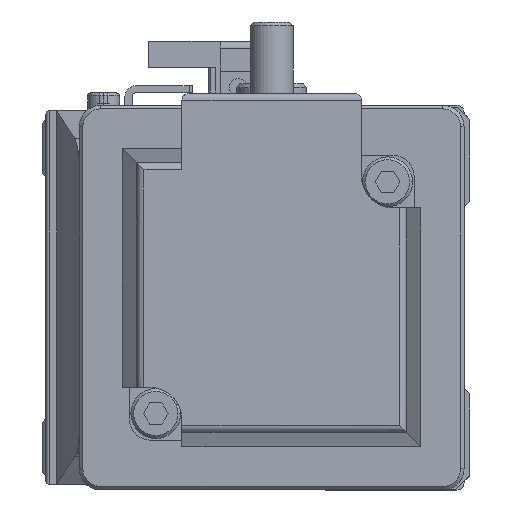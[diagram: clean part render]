
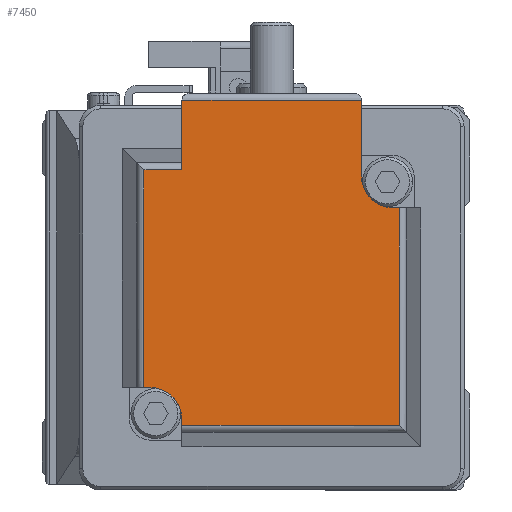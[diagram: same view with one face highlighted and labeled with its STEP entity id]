
A CAD part, left-side view. The second image highlights one B-rep face of the part: STEP entity #7450.
In plain terms, the highlighted planar face has unit normal (-1, 0, 0) as drawn and (0, 1, 0) by its records, which use the part's own axes.
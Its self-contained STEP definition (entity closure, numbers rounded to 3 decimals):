
#237 = ORIENTED_EDGE ( 'NONE', *, *, #16731, .T. ) ;
#523 = EDGE_CURVE ( 'NONE', #20445, #15789, #9105, .T. ) ;
#900 = FACE_OUTER_BOUND ( 'NONE', #1273, .T. ) ;
#1273 = EDGE_LOOP ( 'NONE', ( #3852, #11206, #3442, #22353, #2925, #15159, #237, #17207, #7364, #24690, #19961, #6644 ) ) ;
#2350 = VECTOR ( 'NONE', #8460, 1000. ) ;
#2925 = ORIENTED_EDGE ( 'NONE', *, *, #3369, .F. ) ;
#3369 = EDGE_CURVE ( 'NONE', #23980, #25893, #25294, .T. ) ;
#3442 = ORIENTED_EDGE ( 'NONE', *, *, #24978, .F. ) ;
#3690 = LINE ( 'NONE', #9837, #30607 ) ;
#3852 = ORIENTED_EDGE ( 'NONE', *, *, #17656, .F. ) ;
#4179 = CARTESIAN_POINT ( 'NONE',  ( -17.929, 100.6, 17.929 ) ) ;
#4431 = AXIS2_PLACEMENT_3D ( 'NONE', #23680, #18546, #16305 ) ;
#4613 = CARTESIAN_POINT ( 'NONE',  ( 17.929, 100.6, 12.6 ) ) ;
#5380 = VECTOR ( 'NONE', #32408, 1000. ) ;
#5597 = CIRCLE ( 'NONE', #29621, 4.5 ) ;
#6644 = ORIENTED_EDGE ( 'NONE', *, *, #23652, .F. ) ;
#7364 = ORIENTED_EDGE ( 'NONE', *, *, #18872, .F. ) ;
#7450 = ADVANCED_FACE ( 'NONE', ( #900 ), #28875, .F. ) ;
#7504 = CARTESIAN_POINT ( 'NONE',  ( 17.929, 100.6, -17.929 ) ) ;
#7593 = LINE ( 'NONE', #7751, #17897 ) ;
#7751 = CARTESIAN_POINT ( 'NONE',  ( -12.6, 100.6, -21. ) ) ;
#8268 = CIRCLE ( 'NONE', #16690, 4.5 ) ;
#8460 = DIRECTION ( 'NONE',  ( 1., 0., 0. ) ) ;
#9105 = LINE ( 'NONE', #23483, #13448 ) ;
#9327 = VECTOR ( 'NONE', #24465, 1000. ) ;
#9837 = CARTESIAN_POINT ( 'NONE',  ( 17.929, 100.6, 25. ) ) ;
#10110 = LINE ( 'NONE', #21664, #9327 ) ;
#10419 = DIRECTION ( 'NONE',  ( 0., 0., 1. ) ) ;
#11190 = CARTESIAN_POINT ( 'NONE',  ( 17.1, 100.6, 17.1 ) ) ;
#11206 = ORIENTED_EDGE ( 'NONE', *, *, #19184, .F. ) ;
#11458 = CARTESIAN_POINT ( 'NONE',  ( -17.1, 100.6, -12.6 ) ) ;
#12398 = DIRECTION ( 'NONE',  ( 0., 0., 1. ) ) ;
#12733 = CARTESIAN_POINT ( 'NONE',  ( 27.7, 100.6, 25. ) ) ;
#13448 = VECTOR ( 'NONE', #26241, 1000. ) ;
#13466 = CARTESIAN_POINT ( 'NONE',  ( -17.1, 100.6, -17.1 ) ) ;
#13908 = CARTESIAN_POINT ( 'NONE',  ( -17.929, 100.6, -12.6 ) ) ;
#14059 = VERTEX_POINT ( 'NONE', #30106 ) ;
#14208 = CARTESIAN_POINT ( 'NONE',  ( 17.929, 100.6, 17.929 ) ) ;
#15159 = ORIENTED_EDGE ( 'NONE', *, *, #22182, .T. ) ;
#15396 = VECTOR ( 'NONE', #22114, 1000. ) ;
#15789 = VERTEX_POINT ( 'NONE', #11458 ) ;
#16305 = DIRECTION ( 'NONE',  ( 0., 0., -1. ) ) ;
#16314 = VERTEX_POINT ( 'NONE', #4179 ) ;
#16518 = CARTESIAN_POINT ( 'NONE',  ( 17.929, 100.6, -12.6 ) ) ;
#16690 = AXIS2_PLACEMENT_3D ( 'NONE', #13466, #23401, #23507 ) ;
#16731 = EDGE_CURVE ( 'NONE', #27912, #15789, #8268, .T. ) ;
#17026 = VERTEX_POINT ( 'NONE', #19257 ) ;
#17207 = ORIENTED_EDGE ( 'NONE', *, *, #523, .F. ) ;
#17656 = EDGE_CURVE ( 'NONE', #29952, #27374, #28059, .T. ) ;
#17719 = CARTESIAN_POINT ( 'NONE',  ( 12.6, 100.6, 25. ) ) ;
#17897 = VECTOR ( 'NONE', #25806, 1000. ) ;
#17945 = VERTEX_POINT ( 'NONE', #23624 ) ;
#18546 = DIRECTION ( 'NONE',  ( 0., -1., 0. ) ) ;
#18547 = CARTESIAN_POINT ( 'NONE',  ( 17.929, 100.6, -17.929 ) ) ;
#18872 = EDGE_CURVE ( 'NONE', #16314, #20445, #10110, .T. ) ;
#19184 = EDGE_CURVE ( 'NONE', #14059, #29952, #29561, .T. ) ;
#19257 = CARTESIAN_POINT ( 'NONE',  ( 12.6, 100.6, 17.1 ) ) ;
#19961 = ORIENTED_EDGE ( 'NONE', *, *, #22005, .F. ) ;
#20445 = VERTEX_POINT ( 'NONE', #13908 ) ;
#20790 = LINE ( 'NONE', #14208, #5380 ) ;
#21617 = VECTOR ( 'NONE', #10419, 1000. ) ;
#21664 = CARTESIAN_POINT ( 'NONE',  ( -17.929, 100.6, 25. ) ) ;
#22005 = EDGE_CURVE ( 'NONE', #17026, #17945, #24686, .T. ) ;
#22114 = DIRECTION ( 'NONE',  ( 1., 0., 0. ) ) ;
#22182 = EDGE_CURVE ( 'NONE', #23980, #27912, #7593, .T. ) ;
#22353 = ORIENTED_EDGE ( 'NONE', *, *, #32056, .F. ) ;
#23401 = DIRECTION ( 'NONE',  ( 0., -1., 0. ) ) ;
#23483 = CARTESIAN_POINT ( 'NONE',  ( 17.929, 100.6, -12.6 ) ) ;
#23507 = DIRECTION ( 'NONE',  ( 0., 0., -1. ) ) ;
#23624 = CARTESIAN_POINT ( 'NONE',  ( 12.6, 100.6, 17.929 ) ) ;
#23652 = EDGE_CURVE ( 'NONE', #27374, #17026, #5597, .T. ) ;
#23680 = CARTESIAN_POINT ( 'NONE',  ( 17.929, 100.6, 25. ) ) ;
#23980 = VERTEX_POINT ( 'NONE', #28276 ) ;
#24465 = DIRECTION ( 'NONE',  ( 0., 0., -1. ) ) ;
#24686 = LINE ( 'NONE', #17719, #31810 ) ;
#24690 = ORIENTED_EDGE ( 'NONE', *, *, #29598, .F. ) ;
#24970 = DIRECTION ( 'NONE',  ( 0., 0., 1. ) ) ;
#24978 = EDGE_CURVE ( 'NONE', #31786, #14059, #28915, .T. ) ;
#25294 = LINE ( 'NONE', #18547, #2350 ) ;
#25806 = DIRECTION ( 'NONE',  ( 0., 0., 1. ) ) ;
#25893 = VERTEX_POINT ( 'NONE', #7504 ) ;
#26085 = VECTOR ( 'NONE', #27064, 1000. ) ;
#26241 = DIRECTION ( 'NONE',  ( 1., 0., 0. ) ) ;
#27064 = DIRECTION ( 'NONE',  ( -1., 0., 0. ) ) ;
#27194 = DIRECTION ( 'NONE',  ( 0., 0., -1. ) ) ;
#27374 = VERTEX_POINT ( 'NONE', #29706 ) ;
#27912 = VERTEX_POINT ( 'NONE', #31751 ) ;
#28059 = LINE ( 'NONE', #4613, #26085 ) ;
#28276 = CARTESIAN_POINT ( 'NONE',  ( -12.6, 100.6, -17.929 ) ) ;
#28855 = DIRECTION ( 'NONE',  ( 0., 1., 0. ) ) ;
#28875 = PLANE ( 'NONE',  #4431 ) ;
#28915 = LINE ( 'NONE', #32506, #15396 ) ;
#29561 = LINE ( 'NONE', #12733, #21617 ) ;
#29598 = EDGE_CURVE ( 'NONE', #17945, #16314, #20790, .T. ) ;
#29621 = AXIS2_PLACEMENT_3D ( 'NONE', #11190, #28855, #27194 ) ;
#29706 = CARTESIAN_POINT ( 'NONE',  ( 17.1, 100.6, 12.6 ) ) ;
#29952 = VERTEX_POINT ( 'NONE', #30738 ) ;
#30106 = CARTESIAN_POINT ( 'NONE',  ( 27.7, 100.6, -12.6 ) ) ;
#30607 = VECTOR ( 'NONE', #12398, 1000. ) ;
#30738 = CARTESIAN_POINT ( 'NONE',  ( 27.7, 100.6, 12.6 ) ) ;
#31751 = CARTESIAN_POINT ( 'NONE',  ( -12.6, 100.6, -17.1 ) ) ;
#31786 = VERTEX_POINT ( 'NONE', #16518 ) ;
#31810 = VECTOR ( 'NONE', #24970, 1000. ) ;
#32056 = EDGE_CURVE ( 'NONE', #25893, #31786, #3690, .T. ) ;
#32408 = DIRECTION ( 'NONE',  ( -1., 0., 0. ) ) ;
#32506 = CARTESIAN_POINT ( 'NONE',  ( 17.929, 100.6, -12.6 ) ) ;
